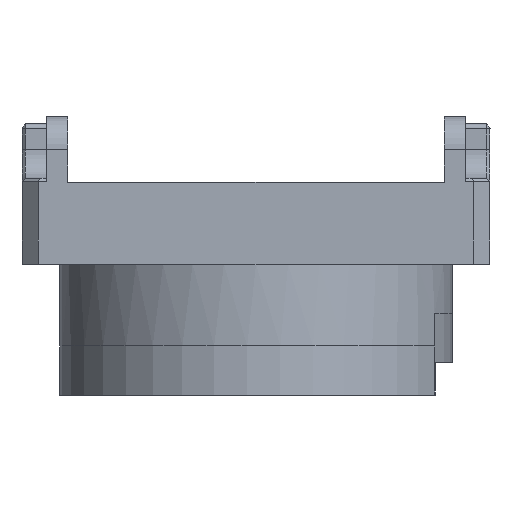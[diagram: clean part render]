
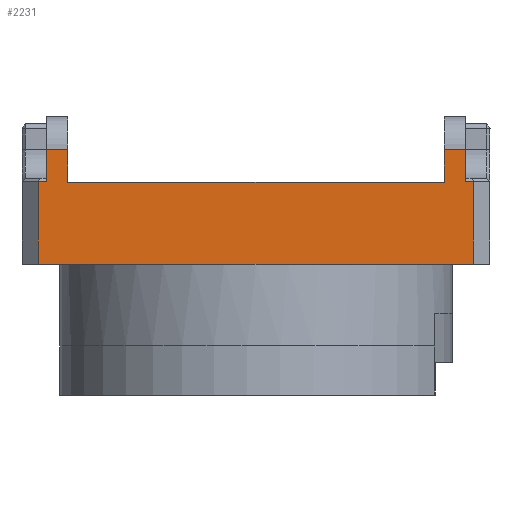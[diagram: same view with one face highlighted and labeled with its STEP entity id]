
A CAD part, left-side view. The second image highlights one B-rep face of the part: STEP entity #2231.
In plain terms, the highlighted planar face has unit normal (-1, 0, 0).
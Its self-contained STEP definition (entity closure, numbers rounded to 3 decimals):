
#62 = CARTESIAN_POINT ( 'NONE',  ( -17., 5., 7.331 ) ) ;
#205 = ORIENTED_EDGE ( 'NONE', *, *, #3369, .F. ) ;
#219 = LINE ( 'NONE', #3777, #2357 ) ;
#334 = ORIENTED_EDGE ( 'NONE', *, *, #748, .F. ) ;
#364 = ORIENTED_EDGE ( 'NONE', *, *, #1218, .F. ) ;
#376 = LINE ( 'NONE', #2211, #2056 ) ;
#447 = VECTOR ( 'NONE', #5270, 1000. ) ;
#470 = ORIENTED_EDGE ( 'NONE', *, *, #4760, .T. ) ;
#558 = VECTOR ( 'NONE', #4037, 1000. ) ;
#618 = VERTEX_POINT ( 'NONE', #1063 ) ;
#748 = EDGE_CURVE ( 'NONE', #1351, #3181, #2485, .T. ) ;
#789 = LINE ( 'NONE', #2576, #4126 ) ;
#857 = VECTOR ( 'NONE', #5349, 1000. ) ;
#883 = ORIENTED_EDGE ( 'NONE', *, *, #4906, .T. ) ;
#933 = VECTOR ( 'NONE', #2738, 1000. ) ;
#977 = VERTEX_POINT ( 'NONE', #5258 ) ;
#1001 = LINE ( 'NONE', #3222, #4671 ) ;
#1007 = VERTEX_POINT ( 'NONE', #5041 ) ;
#1063 = CARTESIAN_POINT ( 'NONE',  ( -17., 0., -11.5 ) ) ;
#1072 = CARTESIAN_POINT ( 'NONE',  ( -17., -0.05, 12.8 ) ) ;
#1098 = LINE ( 'NONE', #1072, #5045 ) ;
#1218 = EDGE_CURVE ( 'NONE', #2564, #3884, #3421, .T. ) ;
#1351 = VERTEX_POINT ( 'NONE', #62 ) ;
#1362 = VERTEX_POINT ( 'NONE', #1748 ) ;
#1677 = CARTESIAN_POINT ( 'NONE',  ( -17., 5., -7.331 ) ) ;
#1748 = CARTESIAN_POINT ( 'NONE',  ( -17., -0.05, -12.8 ) ) ;
#1766 = EDGE_CURVE ( 'NONE', #1351, #2548, #3036, .T. ) ;
#1771 = ORIENTED_EDGE ( 'NONE', *, *, #5005, .F. ) ;
#1810 = LINE ( 'NONE', #3577, #2052 ) ;
#2036 = EDGE_CURVE ( 'NONE', #3181, #4543, #3832, .T. ) ;
#2052 = VECTOR ( 'NONE', #5299, 1000. ) ;
#2056 = VECTOR ( 'NONE', #3943, 1000. ) ;
#2085 = CARTESIAN_POINT ( 'NONE',  ( -17., -2., -11.5 ) ) ;
#2199 = CARTESIAN_POINT ( 'NONE',  ( -17., -2., 12.8 ) ) ;
#2211 = CARTESIAN_POINT ( 'NONE',  ( -17., 5., -14.3 ) ) ;
#2231 = ADVANCED_FACE ( 'NONE', ( #5525 ), #4580, .T. ) ;
#2250 = CARTESIAN_POINT ( 'NONE',  ( -17., 5., -11.5 ) ) ;
#2273 = LINE ( 'NONE', #3562, #857 ) ;
#2299 = ORIENTED_EDGE ( 'NONE', *, *, #4692, .T. ) ;
#2355 = EDGE_CURVE ( 'NONE', #1362, #3884, #3617, .T. ) ;
#2357 = VECTOR ( 'NONE', #5562, 1000. ) ;
#2485 = LINE ( 'NONE', #4217, #3242 ) ;
#2514 = DIRECTION ( 'NONE',  ( 0., 0., 1. ) ) ;
#2548 = VERTEX_POINT ( 'NONE', #1677 ) ;
#2556 = VERTEX_POINT ( 'NONE', #2199 ) ;
#2564 = VERTEX_POINT ( 'NONE', #3022 ) ;
#2576 = CARTESIAN_POINT ( 'NONE',  ( -17., 0., -11.5 ) ) ;
#2614 = ORIENTED_EDGE ( 'NONE', *, *, #2355, .T. ) ;
#2738 = DIRECTION ( 'NONE',  ( 0., 1., 0. ) ) ;
#2761 = EDGE_CURVE ( 'NONE', #2556, #977, #4052, .T. ) ;
#2812 = ORIENTED_EDGE ( 'NONE', *, *, #3115, .F. ) ;
#2961 = CARTESIAN_POINT ( 'NONE',  ( -17., -0.05, 13.3 ) ) ;
#2966 = EDGE_LOOP ( 'NONE', ( #205, #4817, #3481, #2614, #364, #1771, #2299, #883, #2812, #5334, #470, #5097, #334, #5743 ) ) ;
#3022 = CARTESIAN_POINT ( 'NONE',  ( -17., -2., -11.5 ) ) ;
#3036 = LINE ( 'NONE', #2250, #558 ) ;
#3115 = EDGE_CURVE ( 'NONE', #2556, #5720, #219, .T. ) ;
#3175 = CARTESIAN_POINT ( 'NONE',  ( -17., -2., 12.8 ) ) ;
#3181 = VERTEX_POINT ( 'NONE', #3860 ) ;
#3222 = CARTESIAN_POINT ( 'NONE',  ( -17., -0.05, -13.3 ) ) ;
#3242 = VECTOR ( 'NONE', #2514, 1000. ) ;
#3326 = EDGE_CURVE ( 'NONE', #3636, #4445, #2273, .T. ) ;
#3365 = VECTOR ( 'NONE', #4302, 1000. ) ;
#3369 = EDGE_CURVE ( 'NONE', #4445, #2548, #376, .T. ) ;
#3421 = LINE ( 'NONE', #2085, #447 ) ;
#3481 = ORIENTED_EDGE ( 'NONE', *, *, #5173, .T. ) ;
#3562 = CARTESIAN_POINT ( 'NONE',  ( -17., -0.05, -13.3 ) ) ;
#3577 = CARTESIAN_POINT ( 'NONE',  ( -17., 0., -11.5 ) ) ;
#3617 = LINE ( 'NONE', #5407, #4651 ) ;
#3636 = VERTEX_POINT ( 'NONE', #5142 ) ;
#3644 = CARTESIAN_POINT ( 'NONE',  ( -17., -2., -12.8 ) ) ;
#3664 = DIRECTION ( 'NONE',  ( 0., 0., 1. ) ) ;
#3777 = CARTESIAN_POINT ( 'NONE',  ( -17., -2., 12.8 ) ) ;
#3832 = LINE ( 'NONE', #4319, #4365 ) ;
#3860 = CARTESIAN_POINT ( 'NONE',  ( -17., 5., 13.3 ) ) ;
#3884 = VERTEX_POINT ( 'NONE', #3644 ) ;
#3943 = DIRECTION ( 'NONE',  ( 0., 0., 1. ) ) ;
#4037 = DIRECTION ( 'NONE',  ( 0., 0., -1. ) ) ;
#4052 = LINE ( 'NONE', #3175, #933 ) ;
#4126 = VECTOR ( 'NONE', #5158, 1000. ) ;
#4217 = CARTESIAN_POINT ( 'NONE',  ( -17., 5., -14.3 ) ) ;
#4302 = DIRECTION ( 'NONE',  ( 0., -1., 0. ) ) ;
#4319 = CARTESIAN_POINT ( 'NONE',  ( -17., 1., 13.3 ) ) ;
#4365 = VECTOR ( 'NONE', #5617, 1000. ) ;
#4445 = VERTEX_POINT ( 'NONE', #5678 ) ;
#4543 = VERTEX_POINT ( 'NONE', #2961 ) ;
#4580 = PLANE ( 'NONE',  #5129 ) ;
#4605 = DIRECTION ( 'NONE',  ( 0., 0., 1. ) ) ;
#4651 = VECTOR ( 'NONE', #4962, 1000. ) ;
#4671 = VECTOR ( 'NONE', #3664, 1000. ) ;
#4692 = EDGE_CURVE ( 'NONE', #618, #1007, #1810, .T. ) ;
#4760 = EDGE_CURVE ( 'NONE', #977, #4543, #1098, .T. ) ;
#4817 = ORIENTED_EDGE ( 'NONE', *, *, #3326, .F. ) ;
#4906 = EDGE_CURVE ( 'NONE', #1007, #5720, #5672, .T. ) ;
#4962 = DIRECTION ( 'NONE',  ( 0., -1., 0. ) ) ;
#4990 = CARTESIAN_POINT ( 'NONE',  ( -17., 0., -11.5 ) ) ;
#5005 = EDGE_CURVE ( 'NONE', #618, #2564, #789, .T. ) ;
#5041 = CARTESIAN_POINT ( 'NONE',  ( -17., 0., 11.5 ) ) ;
#5045 = VECTOR ( 'NONE', #5511, 1000. ) ;
#5082 = DIRECTION ( 'NONE',  ( -1., 0., 0. ) ) ;
#5097 = ORIENTED_EDGE ( 'NONE', *, *, #2036, .F. ) ;
#5129 = AXIS2_PLACEMENT_3D ( 'NONE', #4990, #5082, #4605 ) ;
#5142 = CARTESIAN_POINT ( 'NONE',  ( -17., -0.05, -13.3 ) ) ;
#5158 = DIRECTION ( 'NONE',  ( 0., -1., 0. ) ) ;
#5173 = EDGE_CURVE ( 'NONE', #3636, #1362, #1001, .T. ) ;
#5258 = CARTESIAN_POINT ( 'NONE',  ( -17., -0.05, 12.8 ) ) ;
#5270 = DIRECTION ( 'NONE',  ( 0., 0., -1. ) ) ;
#5299 = DIRECTION ( 'NONE',  ( 0., 0., 1. ) ) ;
#5334 = ORIENTED_EDGE ( 'NONE', *, *, #2761, .T. ) ;
#5349 = DIRECTION ( 'NONE',  ( 0., 1., 0. ) ) ;
#5407 = CARTESIAN_POINT ( 'NONE',  ( -17., -0.05, -12.8 ) ) ;
#5511 = DIRECTION ( 'NONE',  ( 0., 0., 1. ) ) ;
#5525 = FACE_OUTER_BOUND ( 'NONE', #2966, .T. ) ;
#5562 = DIRECTION ( 'NONE',  ( 0., 0., -1. ) ) ;
#5617 = DIRECTION ( 'NONE',  ( 0., -1., 0. ) ) ;
#5627 = CARTESIAN_POINT ( 'NONE',  ( -17., 0., 11.5 ) ) ;
#5632 = CARTESIAN_POINT ( 'NONE',  ( -17., -2., 11.5 ) ) ;
#5672 = LINE ( 'NONE', #5627, #3365 ) ;
#5678 = CARTESIAN_POINT ( 'NONE',  ( -17., 5., -13.3 ) ) ;
#5720 = VERTEX_POINT ( 'NONE', #5632 ) ;
#5743 = ORIENTED_EDGE ( 'NONE', *, *, #1766, .T. ) ;
